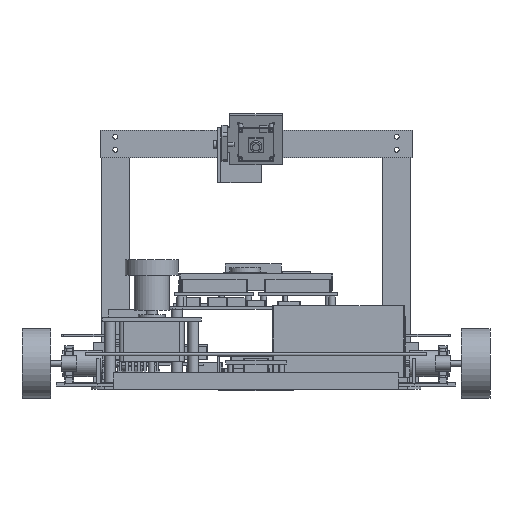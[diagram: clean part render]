
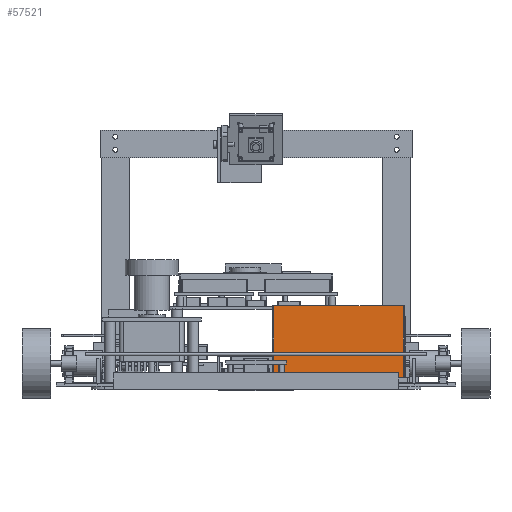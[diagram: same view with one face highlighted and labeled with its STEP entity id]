
A CAD part, front view. The second image highlights one B-rep face of the part: STEP entity #57521.
In plain terms, the highlighted planar face has unit normal (0, -1, 0).
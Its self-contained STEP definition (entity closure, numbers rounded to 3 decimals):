
#56999 = PLANE('',#57000);
#57000 = AXIS2_PLACEMENT_3D('',#57001,#57002,#57003);
#57001 = CARTESIAN_POINT('',(15.,110.,84.));
#57002 = DIRECTION('',(0.,0.,1.));
#57003 = DIRECTION('',(1.,0.,0.));
#57027 = CYLINDRICAL_SURFACE('',#57028,1.);
#57028 = AXIS2_PLACEMENT_3D('',#57029,#57030,#57031);
#57029 = CARTESIAN_POINT('',(16.,111.,19.));
#57030 = DIRECTION('',(0.,0.,1.));
#57031 = DIRECTION('',(-1.,-0.,0.));
#57055 = PLANE('',#57056);
#57056 = AXIS2_PLACEMENT_3D('',#57057,#57058,#57059);
#57057 = CARTESIAN_POINT('',(15.,110.,19.));
#57058 = DIRECTION('',(0.,0.,1.));
#57059 = DIRECTION('',(1.,0.,0.));
#57098 = VERTEX_POINT('',#57099);
#57099 = CARTESIAN_POINT('',(16.,110.,84.));
#57121 = EDGE_CURVE('',#57098,#57122,#57124,.T.);
#57122 = VERTEX_POINT('',#57123);
#57123 = CARTESIAN_POINT('',(134.,110.,84.));
#57124 = SURFACE_CURVE('',#57125,(#57129,#57136),.PCURVE_S1.);
#57125 = LINE('',#57126,#57127);
#57126 = CARTESIAN_POINT('',(15.,110.,84.));
#57127 = VECTOR('',#57128,1.);
#57128 = DIRECTION('',(1.,0.,0.));
#57129 = PCURVE('',#56999,#57130);
#57130 = DEFINITIONAL_REPRESENTATION('',(#57131),#57135);
#57131 = LINE('',#57132,#57133);
#57132 = CARTESIAN_POINT('',(0.,0.));
#57133 = VECTOR('',#57134,1.);
#57134 = DIRECTION('',(1.,0.));
#57135 = ( GEOMETRIC_REPRESENTATION_CONTEXT(2) 
PARAMETRIC_REPRESENTATION_CONTEXT() REPRESENTATION_CONTEXT('2D SPACE',''
  ) );
#57136 = PCURVE('',#57137,#57142);
#57137 = PLANE('',#57138);
#57138 = AXIS2_PLACEMENT_3D('',#57139,#57140,#57141);
#57139 = CARTESIAN_POINT('',(15.,110.,19.));
#57140 = DIRECTION('',(0.,1.,0.));
#57141 = DIRECTION('',(0.,0.,1.));
#57142 = DEFINITIONAL_REPRESENTATION('',(#57143),#57147);
#57143 = LINE('',#57144,#57145);
#57144 = CARTESIAN_POINT('',(65.,0.));
#57145 = VECTOR('',#57146,1.);
#57146 = DIRECTION('',(0.,1.));
#57147 = ( GEOMETRIC_REPRESENTATION_CONTEXT(2) 
PARAMETRIC_REPRESENTATION_CONTEXT() REPRESENTATION_CONTEXT('2D SPACE',''
  ) );
#57170 = CYLINDRICAL_SURFACE('',#57171,1.);
#57171 = AXIS2_PLACEMENT_3D('',#57172,#57173,#57174);
#57172 = CARTESIAN_POINT('',(134.,111.,19.));
#57173 = DIRECTION('',(0.,0.,1.));
#57174 = DIRECTION('',(1.,0.,-0.));
#57297 = VERTEX_POINT('',#57298);
#57298 = CARTESIAN_POINT('',(16.,110.,19.));
#57320 = EDGE_CURVE('',#57297,#57098,#57321,.T.);
#57321 = SURFACE_CURVE('',#57322,(#57326,#57333),.PCURVE_S1.);
#57322 = LINE('',#57323,#57324);
#57323 = CARTESIAN_POINT('',(16.,110.,19.));
#57324 = VECTOR('',#57325,1.);
#57325 = DIRECTION('',(0.,0.,1.));
#57326 = PCURVE('',#57027,#57327);
#57327 = DEFINITIONAL_REPRESENTATION('',(#57328),#57332);
#57328 = LINE('',#57329,#57330);
#57329 = CARTESIAN_POINT('',(1.571,0.));
#57330 = VECTOR('',#57331,1.);
#57331 = DIRECTION('',(0.,1.));
#57332 = ( GEOMETRIC_REPRESENTATION_CONTEXT(2) 
PARAMETRIC_REPRESENTATION_CONTEXT() REPRESENTATION_CONTEXT('2D SPACE',''
  ) );
#57333 = PCURVE('',#57137,#57334);
#57334 = DEFINITIONAL_REPRESENTATION('',(#57335),#57339);
#57335 = LINE('',#57336,#57337);
#57336 = CARTESIAN_POINT('',(0.,1.));
#57337 = VECTOR('',#57338,1.);
#57338 = DIRECTION('',(1.,0.));
#57339 = ( GEOMETRIC_REPRESENTATION_CONTEXT(2) 
PARAMETRIC_REPRESENTATION_CONTEXT() REPRESENTATION_CONTEXT('2D SPACE',''
  ) );
#57402 = EDGE_CURVE('',#57297,#57403,#57405,.T.);
#57403 = VERTEX_POINT('',#57404);
#57404 = CARTESIAN_POINT('',(134.,110.,19.));
#57405 = SURFACE_CURVE('',#57406,(#57410,#57417),.PCURVE_S1.);
#57406 = LINE('',#57407,#57408);
#57407 = CARTESIAN_POINT('',(15.,110.,19.));
#57408 = VECTOR('',#57409,1.);
#57409 = DIRECTION('',(1.,0.,0.));
#57410 = PCURVE('',#57055,#57411);
#57411 = DEFINITIONAL_REPRESENTATION('',(#57412),#57416);
#57412 = LINE('',#57413,#57414);
#57413 = CARTESIAN_POINT('',(0.,0.));
#57414 = VECTOR('',#57415,1.);
#57415 = DIRECTION('',(1.,0.));
#57416 = ( GEOMETRIC_REPRESENTATION_CONTEXT(2) 
PARAMETRIC_REPRESENTATION_CONTEXT() REPRESENTATION_CONTEXT('2D SPACE',''
  ) );
#57417 = PCURVE('',#57137,#57418);
#57418 = DEFINITIONAL_REPRESENTATION('',(#57419),#57423);
#57419 = LINE('',#57420,#57421);
#57420 = CARTESIAN_POINT('',(0.,0.));
#57421 = VECTOR('',#57422,1.);
#57422 = DIRECTION('',(0.,1.));
#57423 = ( GEOMETRIC_REPRESENTATION_CONTEXT(2) 
PARAMETRIC_REPRESENTATION_CONTEXT() REPRESENTATION_CONTEXT('2D SPACE',''
  ) );
#57521 = ADVANCED_FACE('',(#57522),#57137,.F.);
#57522 = FACE_BOUND('',#57523,.F.);
#57523 = EDGE_LOOP('',(#57524,#57525,#57526,#57527));
#57524 = ORIENTED_EDGE('',*,*,#57402,.F.);
#57525 = ORIENTED_EDGE('',*,*,#57320,.T.);
#57526 = ORIENTED_EDGE('',*,*,#57121,.T.);
#57527 = ORIENTED_EDGE('',*,*,#57528,.F.);
#57528 = EDGE_CURVE('',#57403,#57122,#57529,.T.);
#57529 = SURFACE_CURVE('',#57530,(#57534,#57541),.PCURVE_S1.);
#57530 = LINE('',#57531,#57532);
#57531 = CARTESIAN_POINT('',(134.,110.,19.));
#57532 = VECTOR('',#57533,1.);
#57533 = DIRECTION('',(0.,0.,1.));
#57534 = PCURVE('',#57137,#57535);
#57535 = DEFINITIONAL_REPRESENTATION('',(#57536),#57540);
#57536 = LINE('',#57537,#57538);
#57537 = CARTESIAN_POINT('',(0.,119.));
#57538 = VECTOR('',#57539,1.);
#57539 = DIRECTION('',(1.,0.));
#57540 = ( GEOMETRIC_REPRESENTATION_CONTEXT(2) 
PARAMETRIC_REPRESENTATION_CONTEXT() REPRESENTATION_CONTEXT('2D SPACE',''
  ) );
#57541 = PCURVE('',#57170,#57542);
#57542 = DEFINITIONAL_REPRESENTATION('',(#57543),#57547);
#57543 = LINE('',#57544,#57545);
#57544 = CARTESIAN_POINT('',(-1.571,0.));
#57545 = VECTOR('',#57546,1.);
#57546 = DIRECTION('',(-0.,1.));
#57547 = ( GEOMETRIC_REPRESENTATION_CONTEXT(2) 
PARAMETRIC_REPRESENTATION_CONTEXT() REPRESENTATION_CONTEXT('2D SPACE',''
  ) );
